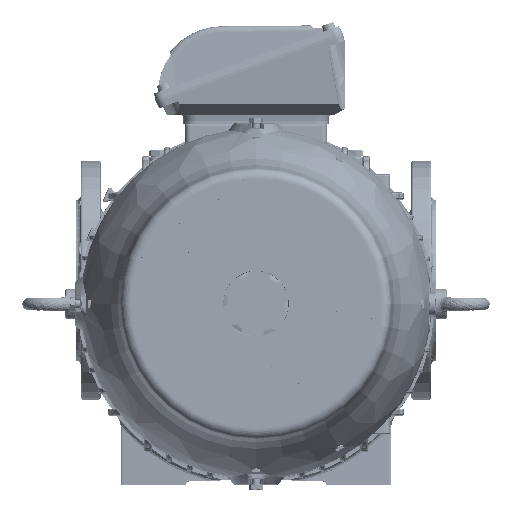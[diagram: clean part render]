
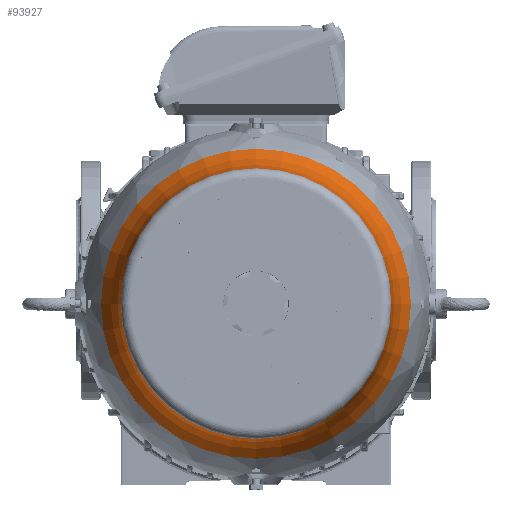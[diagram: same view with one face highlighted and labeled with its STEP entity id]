
A CAD part, top view. The second image highlights one B-rep face of the part: STEP entity #93927.
In plain terms, the highlighted toroidal (fillet/blend) face has major radius 264.661 mm and minor radius 130 mm.
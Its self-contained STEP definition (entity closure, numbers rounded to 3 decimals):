
#63=TOROIDAL_SURFACE('',#100434,264.661,130.);
#11700=FACE_OUTER_BOUND('',#17240,.T.);
#17240=EDGE_LOOP('',(#71899,#71900,#71901,#71902,#71903,#71904));
#26795=CIRCLE('',#100429,134.976);
#26796=CIRCLE('',#100430,134.976);
#26800=CIRCLE('',#100435,154.526);
#26801=CIRCLE('',#100436,154.526);
#26802=CIRCLE('',#100437,130.);
#42497=VERTEX_POINT('',#188950);
#42498=VERTEX_POINT('',#188951);
#42501=VERTEX_POINT('',#188960);
#42502=VERTEX_POINT('',#188961);
#53204=EDGE_CURVE('',#42497,#42498,#26795,.T.);
#53205=EDGE_CURVE('',#42498,#42497,#26796,.T.);
#53209=EDGE_CURVE('',#42501,#42502,#26800,.T.);
#53210=EDGE_CURVE('',#42502,#42501,#26801,.T.);
#53211=EDGE_CURVE('',#42502,#42498,#26802,.T.);
#71899=ORIENTED_EDGE('',*,*,#53209,.F.);
#71900=ORIENTED_EDGE('',*,*,#53210,.F.);
#71901=ORIENTED_EDGE('',*,*,#53211,.T.);
#71902=ORIENTED_EDGE('',*,*,#53205,.T.);
#71903=ORIENTED_EDGE('',*,*,#53204,.T.);
#71904=ORIENTED_EDGE('',*,*,#53211,.F.);
#93927=ADVANCED_FACE('',(#11700),#63,.F.);
#100429=AXIS2_PLACEMENT_3D('',#188952,#113717,#113718);
#100430=AXIS2_PLACEMENT_3D('',#188953,#113719,#113720);
#100434=AXIS2_PLACEMENT_3D('',#188959,#113727,#113728);
#100435=AXIS2_PLACEMENT_3D('',#188962,#113729,#113730);
#100436=AXIS2_PLACEMENT_3D('',#188963,#113731,#113732);
#100437=AXIS2_PLACEMENT_3D('',#188964,#113733,#113734);
#113717=DIRECTION('center_axis',(0.,0.,
-1.));
#113718=DIRECTION('ref_axis',(-1.,0.,0.));
#113719=DIRECTION('center_axis',(0.,0.,
-1.));
#113720=DIRECTION('ref_axis',(-1.,0.,0.));
#113727=DIRECTION('center_axis',(0.,0.,
-1.));
#113728=DIRECTION('ref_axis',(-1.,0.,0.));
#113729=DIRECTION('center_axis',(0.,0.,
-1.));
#113730=DIRECTION('ref_axis',(-1.,0.,0.));
#113731=DIRECTION('center_axis',(0.,0.,
-1.));
#113732=DIRECTION('ref_axis',(-1.,0.,0.));
#113733=DIRECTION('center_axis',(0.,1.,0.));
#113734=DIRECTION('ref_axis',(1.,0.,0.));
#188950=CARTESIAN_POINT('',(-134.976,0.,702.195));
#188951=CARTESIAN_POINT('',(134.976,0.,702.195));
#188952=CARTESIAN_POINT('Origin',(0.,0.,
702.195));
#188953=CARTESIAN_POINT('Origin',(0.,0.,
702.195));
#188959=CARTESIAN_POINT('Origin',(0.,0.,
711.231));
#188960=CARTESIAN_POINT('',(-154.526,0.,642.164));
#188961=CARTESIAN_POINT('',(154.526,0.,642.164));
#188962=CARTESIAN_POINT('Origin',(0.,0.,
642.164));
#188963=CARTESIAN_POINT('Origin',(0.,0.,
642.164));
#188964=CARTESIAN_POINT('Origin',(264.661,0.,
711.231));
